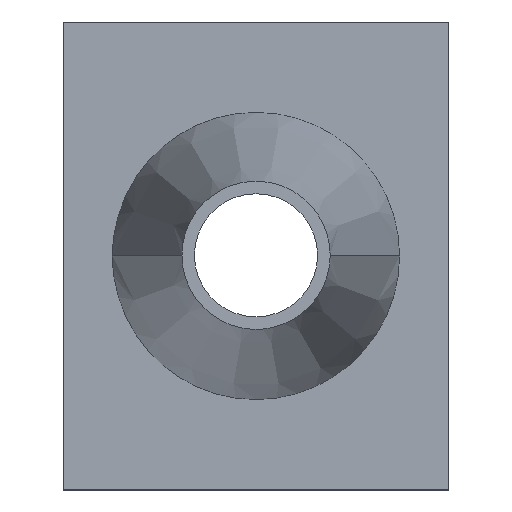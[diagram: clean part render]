
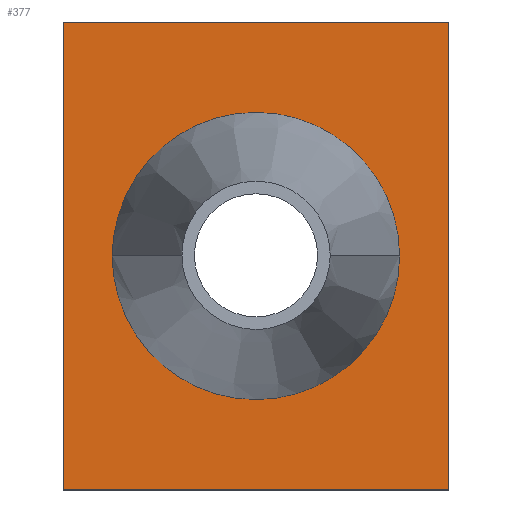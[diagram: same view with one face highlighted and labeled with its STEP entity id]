
A CAD part, top view. The second image highlights one B-rep face of the part: STEP entity #377.
In plain terms, the highlighted planar face has unit normal (0, 0, 1).
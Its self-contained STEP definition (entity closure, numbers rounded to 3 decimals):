
#167=CARTESIAN_POINT('Vertex',(0.,114.,3.)) ;
#174=CARTESIAN_POINT('Vertex',(0.,0.,3.)) ;
#177=CARTESIAN_POINT('Line Origine',(0.,57.,3.)) ;
#198=CARTESIAN_POINT('Vertex',(94.,114.,3.)) ;
#201=CARTESIAN_POINT('Line Origine',(47.,114.,3.)) ;
#222=CARTESIAN_POINT('Vertex',(94.,0.,3.)) ;
#225=CARTESIAN_POINT('Line Origine',(94.,57.,3.)) ;
#242=CARTESIAN_POINT('Line Origine',(47.,0.,3.)) ;
#324=CARTESIAN_POINT('Axis2P3D Location',(0.,0.,3.)) ;
#336=CARTESIAN_POINT('Control Point',(81.974,57.,3.)) ;
#337=CARTESIAN_POINT('Control Point',(81.974,62.81,3.)) ;
#338=CARTESIAN_POINT('Control Point',(80.767,68.62,3.)) ;
#339=CARTESIAN_POINT('Control Point',(78.352,74.096,3.)) ;
#340=CARTESIAN_POINT('Control Point',(71.4,83.715,3.)) ;
#341=CARTESIAN_POINT('Control Point',(61.192,89.77,3.)) ;
#342=CARTESIAN_POINT('Control Point',(55.519,91.68,3.)) ;
#343=CARTESIAN_POINT('Control Point',(43.726,93.032,3.)) ;
#344=CARTESIAN_POINT('Control Point',(32.371,89.577,3.)) ;
#345=CARTESIAN_POINT('Control Point',(27.135,86.676,3.)) ;
#346=CARTESIAN_POINT('Control Point',(19.162,79.73,3.)) ;
#347=CARTESIAN_POINT('Control Point',(14.239,70.468,3.)) ;
#348=CARTESIAN_POINT('Control Point',(12.764,66.085,3.)) ;
#349=CARTESIAN_POINT('Control Point',(12.026,61.543,3.)) ;
#350=CARTESIAN_POINT('Control Point',(12.026,57.,3.)) ;
#351=CARTESIAN_POINT('Vertex',(81.974,57.,3.)) ;
#353=CARTESIAN_POINT('Vertex',(12.026,57.,3.)) ;
#357=CARTESIAN_POINT('Control Point',(81.974,57.,3.)) ;
#358=CARTESIAN_POINT('Control Point',(81.974,51.19,3.)) ;
#359=CARTESIAN_POINT('Control Point',(80.767,45.38,3.)) ;
#360=CARTESIAN_POINT('Control Point',(78.352,39.904,3.)) ;
#361=CARTESIAN_POINT('Control Point',(71.4,30.285,3.)) ;
#362=CARTESIAN_POINT('Control Point',(61.192,24.23,3.)) ;
#363=CARTESIAN_POINT('Control Point',(55.519,22.32,3.)) ;
#364=CARTESIAN_POINT('Control Point',(43.726,20.968,3.)) ;
#365=CARTESIAN_POINT('Control Point',(32.371,24.423,3.)) ;
#366=CARTESIAN_POINT('Control Point',(27.135,27.324,3.)) ;
#367=CARTESIAN_POINT('Control Point',(19.162,34.27,3.)) ;
#368=CARTESIAN_POINT('Control Point',(14.239,43.532,3.)) ;
#369=CARTESIAN_POINT('Control Point',(12.764,47.915,3.)) ;
#370=CARTESIAN_POINT('Control Point',(12.026,52.457,3.)) ;
#371=CARTESIAN_POINT('Control Point',(12.026,57.,3.)) ;
#178=DIRECTION('Vector Direction',(0.,1.,0.)) ;
#202=DIRECTION('Vector Direction',(-1.,0.,0.)) ;
#226=DIRECTION('Vector Direction',(0.,1.,0.)) ;
#243=DIRECTION('Vector Direction',(1.,0.,0.)) ;
#325=DIRECTION('Axis2P3D Direction',(0.,0.,1.)) ;
#326=DIRECTION('Axis2P3D XDirection',(1.,0.,0.)) ;
#327=AXIS2_PLACEMENT_3D('Plane Axis2P3D',#324,#325,#326) ;
#330=ORIENTED_EDGE('',*,*,#181,.F.) ;
#331=ORIENTED_EDGE('',*,*,#246,.T.) ;
#332=ORIENTED_EDGE('',*,*,#229,.T.) ;
#333=ORIENTED_EDGE('',*,*,#205,.T.) ;
#374=ORIENTED_EDGE('',*,*,#355,.F.) ;
#375=ORIENTED_EDGE('',*,*,#372,.T.) ;
#376=FACE_BOUND('',#373,.T.) ;
#179=VECTOR('Line Direction',#178,1.) ;
#203=VECTOR('Line Direction',#202,1.) ;
#227=VECTOR('Line Direction',#226,1.) ;
#244=VECTOR('Line Direction',#243,1.) ;
#377=ADVANCED_FACE('PartBody',(#334,#376),#328,.T.) ;
#335=B_SPLINE_CURVE_WITH_KNOTS('',5,(#336,#337,#338,#339,#340,#341,#342,#343,#344,#345,#346,#347,#348,#349,#350),.UNSPECIFIED.,.F.,.U.,(6,3,3,3,6),(0.,31.609,63.222,94.835,119.549),.UNSPECIFIED.) ;
#356=B_SPLINE_CURVE_WITH_KNOTS('',5,(#357,#358,#359,#360,#361,#362,#363,#364,#365,#366,#367,#368,#369,#370,#371),.UNSPECIFIED.,.F.,.U.,(6,3,3,3,6),(0.,31.609,63.222,94.835,119.549),.UNSPECIFIED.) ;
#181=EDGE_CURVE('',#175,#168,#180,.T.) ;
#205=EDGE_CURVE('',#199,#168,#204,.T.) ;
#229=EDGE_CURVE('',#223,#199,#228,.T.) ;
#246=EDGE_CURVE('',#175,#223,#245,.T.) ;
#355=EDGE_CURVE('',#352,#354,#335,.T.) ;
#372=EDGE_CURVE('',#352,#354,#356,.T.) ;
#329=EDGE_LOOP('',(#330,#331,#332,#333)) ;
#373=EDGE_LOOP('',(#374,#375)) ;
#334=FACE_OUTER_BOUND('',#329,.T.) ;
#180=LINE('Line',#177,#179) ;
#204=LINE('Line',#201,#203) ;
#228=LINE('Line',#225,#227) ;
#245=LINE('Line',#242,#244) ;
#328=PLANE('',#327) ;
#168=VERTEX_POINT('',#167) ;
#175=VERTEX_POINT('',#174) ;
#199=VERTEX_POINT('',#198) ;
#223=VERTEX_POINT('',#222) ;
#352=VERTEX_POINT('',#351) ;
#354=VERTEX_POINT('',#353) ;
